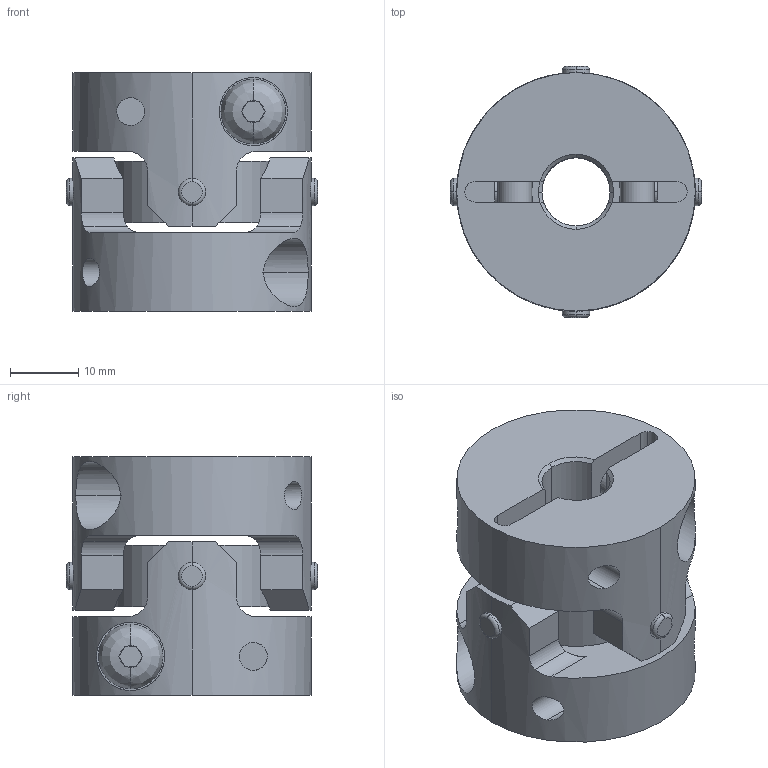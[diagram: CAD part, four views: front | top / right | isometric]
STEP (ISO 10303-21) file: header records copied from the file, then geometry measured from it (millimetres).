
FILE_DESCRIPTION((''),'2;1');
FILE_NAME('UA-35C-10×10.stp','2013-05-22T08:48:26',(''),(''),'AutoCAD STEP 2000i','AutoCAD 2000i',', , ');
FILE_SCHEMA(('CONFIG_CONTROL_DESIGN'));
Length unit declared in the file: millimetre
Products named in the file (6): UA-35C-8×8; 忣兜1; UA-3502-D08-1; BTN-M5; UA-3502-D08; UA35-SEN
Assembly tree (6 placements, depth 3):
  UA-35C-8×8
    忣兜1
    UA-3502-D08-1
      BTN-M5
    UA-3502-D08
      BTN-M5
    UA35-SEN
Bounding box: 36.83 x 36.83 x 35 mm (x, y, z)
Volume: 22841 mm3; surface area: 12002 mm2
Topology: 1 solids, 1 shells, 250 faces, 646 edges, 408 vertices
Faces by surface type: plane 122, cylinder 96, cone 16, bspline 8, torus 8
Entity records: 9647 total; most frequent: CARTESIAN_POINT 3391, ORIENTED_EDGE 1292, DIRECTION 1288, EDGE_CURVE 646, AXIS2_PLACEMENT_3D 497, VERTEX_POINT 408, VECTOR 294, LINE 294
